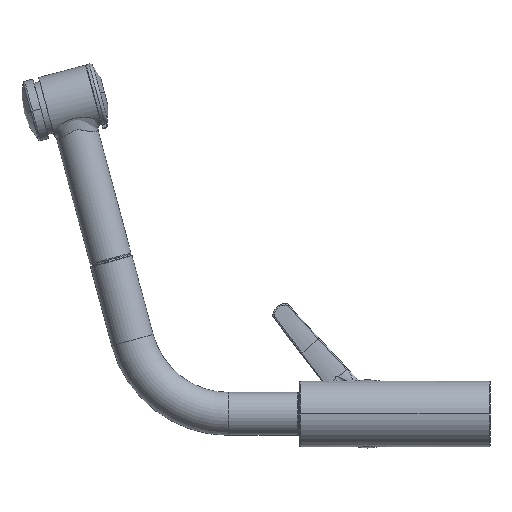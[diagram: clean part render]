
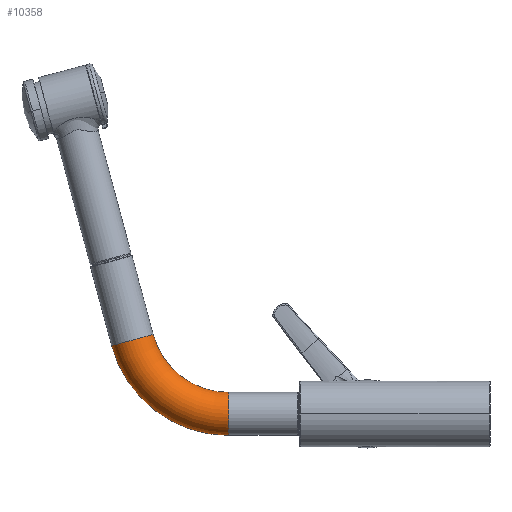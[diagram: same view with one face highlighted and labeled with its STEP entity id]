
A CAD part, left-side view. The second image highlights one B-rep face of the part: STEP entity #10358.
In plain terms, the highlighted toroidal (fillet/blend) face has major radius 73 mm and minor radius 15.75 mm.
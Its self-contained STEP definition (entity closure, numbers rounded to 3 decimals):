
#2963=CARTESIAN_POINT('',(0.,191.55,73.));
#2964=DIRECTION('',(1.,0.,0.));
#2965=DIRECTION('',(0.,0.,-1.));
#2966=AXIS2_PLACEMENT_3D('',#2963,#2964,#2965);
#2968=CARTESIAN_POINT('',(0.,191.55,0.));
#2969=DIRECTION('',(0.,1.,0.));
#2970=DIRECTION('',(0.,0.,-1.));
#2971=AXIS2_PLACEMENT_3D('',#2968,#2969,#2970);
#2973=CARTESIAN_POINT('',(0.,191.55,73.));
#2974=DIRECTION('',(1.,0.,0.));
#2975=DIRECTION('',(0.,0.,-1.));
#2976=AXIS2_PLACEMENT_3D('',#2973,#2974,#2975);
#2991=CARTESIAN_POINT('',(0.,262.063,
54.106));
#2992=DIRECTION('',(0.,0.259,0.966));
#2993=DIRECTION('',(0.,0.966,-0.259));
#2994=AXIS2_PLACEMENT_3D('',#2991,#2992,#2993);
#4147=CARTESIAN_POINT('',(0.,191.55,-15.75));
#4148=CARTESIAN_POINT('',(0.,191.55,15.75));
#4149=VERTEX_POINT('',#4147);
#4150=VERTEX_POINT('',#4148);
#4151=CARTESIAN_POINT('',(0.,277.276,
50.03));
#4152=CARTESIAN_POINT('',(0.,246.849,
58.183));
#4153=VERTEX_POINT('',#4151);
#4154=VERTEX_POINT('',#4152);
#10346=CARTESIAN_POINT('',(0.,191.55,73.));
#10347=DIRECTION('',(1.,0.,0.));
#10348=DIRECTION('',(0.,0.,1.));
#10349=AXIS2_PLACEMENT_3D('',#10346,#10347,#10348);
#10350=TOROIDAL_SURFACE('',#10349,73.,15.75);
#10351=ORIENTED_EDGE('',*,*,#10275,.F.);
#10352=ORIENTED_EDGE('',*,*,#10329,.T.);
#10354=ORIENTED_EDGE('',*,*,#10353,.T.);
#10355=ORIENTED_EDGE('',*,*,#10325,.F.);
#10356=EDGE_LOOP('',(#10351,#10352,#10354,#10355));
#10357=FACE_OUTER_BOUND('',#10356,.F.);
#2967=CIRCLE('',#2966,57.25);
#2972=CIRCLE('',#2971,15.75);
#2977=CIRCLE('',#2976,88.75);
#2995=CIRCLE('',#2994,15.75);
#10275=EDGE_CURVE('',#4149,#4150,#2972,.T.);
#10325=EDGE_CURVE('',#4150,#4154,#2967,.T.);
#10329=EDGE_CURVE('',#4149,#4153,#2977,.T.);
#10353=EDGE_CURVE('',#4153,#4154,#2995,.T.);
#10358=ADVANCED_FACE('',(#10357),#10350,.T.);
